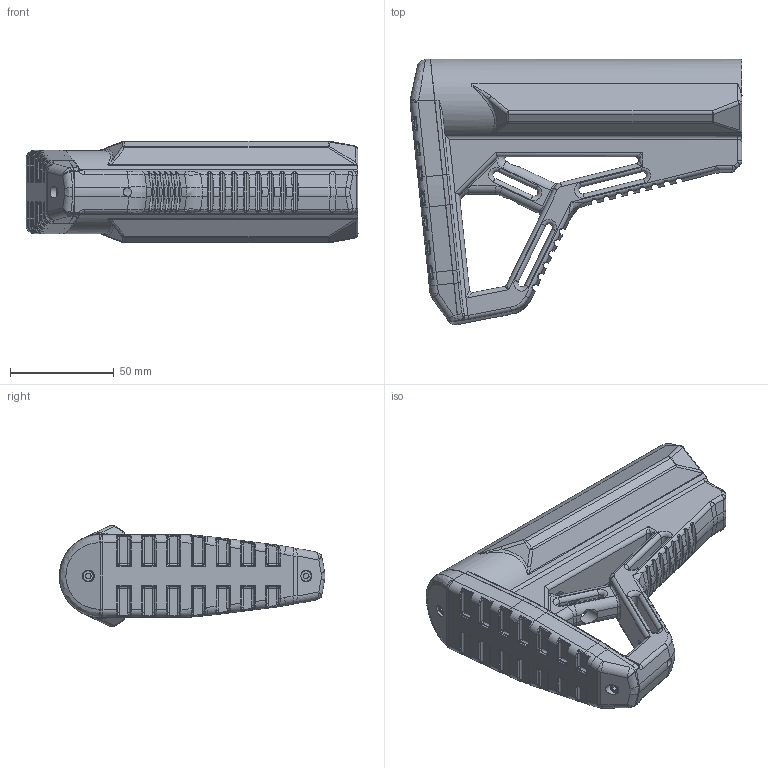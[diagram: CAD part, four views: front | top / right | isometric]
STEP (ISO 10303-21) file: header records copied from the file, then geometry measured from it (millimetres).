
FILE_DESCRIPTION(/* description */ (''),/* implementation_level */ '2;1');
FILE_NAME(/* name */ 'D:/Pew Pews/FGC-9_MkII_Stingray_Edition/Stingray edition/.step files/3 - Buffer Tube and Stock/3. Default FGC-9 mk2 buffer tube and stock/Butt Stock Assembly.step',/* time_stamp */ '2022-05-23T19:32:34-06:00',/* author */ (''),/* organization */ (''),/* preprocessor_version */ 'ST-DEVELOPER v18.1',/* originating_system */ 'Autodesk Translation Framework v10.10.0.1391',/* authorisation */ '');
FILE_SCHEMA (('AUTOMOTIVE_DESIGN { 1 0 10303 214 3 1 1 }'));
Products named in the file (5): Butt Stock Assembly; Stock; Butt Plate; Socket Head Screw M3 DIN 912 16mm 9; Socket Head Screw M3 DIN 912 16mm 10
Assembly tree (4 placements, depth 2):
  Butt Stock Assembly
    Stock
    Butt Plate
    Socket Head Screw M3 DIN 912 16mm 9
    Socket Head Screw M3 DIN 912 16mm 10
Bounding box: 159.84 x 127.82 x 49.02 mm (x, y, z)
Volume: 201282.9 mm3; surface area: 70998.7 mm2
Topology: 4 solids, 4 shells, 1048 faces, 2606 edges, 1493 vertices
Faces by surface type: cylinder 485, plane 221, bspline 181, torus 100, sphere 43, cone 18
Full cylindrical faces by diameter (mm): 2.35 x62, 2.7 x2, 3 x62, 3.25 x2, 4 x1, 5.5 x2, 5.65 x2, 7.25 x1, 8 x2, 36.3 x1
Entity records: 47198 total; most frequent: CARTESIAN_POINT 23853, ORIENTED_EDGE 5068, DIRECTION 4584, EDGE_CURVE 2534, AXIS2_PLACEMENT_3D 1808, VERTEX_POINT 1493, EDGE_LOOP 1069, FACE_OUTER_BOUND 1048
